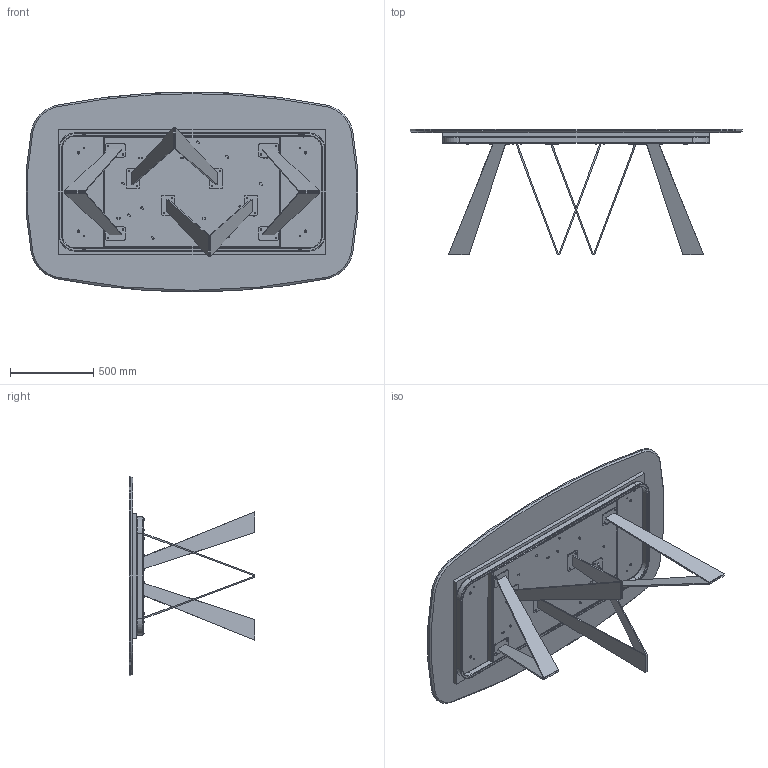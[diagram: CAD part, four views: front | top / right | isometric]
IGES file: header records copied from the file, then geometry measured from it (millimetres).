
Start section: SolidWorks IGES file using analytic representation for surfaces
Global section: file name: Y:\eforma\TECNICO\SOLIDWORKS\E-FORMA\1-TAVOLI\NOA TAVOLO\02 parts\NO41M_Noa_200x120x75h_Marble Shaped.IGS; native system: SolidWorks 2022; preprocessor: SolidWorks 2022; author: eforma.tech; date: 240807.162623; units: millimetre
Bounding box: 1992.14 x 752.8 x 1200 mm (x, y, z)
Volume: 82598358.3 mm3; surface area: 11018781.4 mm2
Topology: 71 solids, 71 shells, 1708 faces, 3916 edges, 2315 vertices
Faces by surface type: revolution 1070, plane 638
